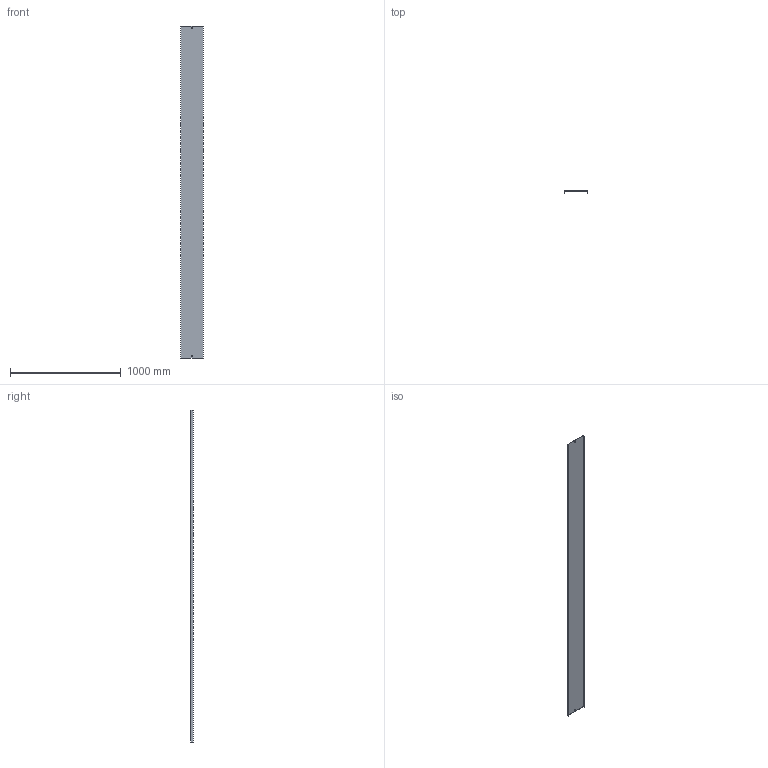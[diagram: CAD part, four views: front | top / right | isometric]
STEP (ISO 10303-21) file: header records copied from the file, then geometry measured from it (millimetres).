
FILE_DESCRIPTION (( 'STEP AP214' ), '1' );
FILE_NAME ('05G3R200.step', '2025-02-21T13:07:52', ( '' ), ( '' ), 'SwSTEP 2.0', 'SolidWorks 2023', '' );
FILE_SCHEMA (( 'AUTOMOTIVE_DESIGN' ));
Length unit declared in the file: millimetre
Products named in the file (1): 05G3R200
Bounding box: 207 x 20 x 3000 mm (x, y, z)
Volume: 1097824.5 mm3; surface area: 1473591 mm2
Topology: 1 solids, 1 shells, 18 faces, 48 edges, 32 vertices
Faces by surface type: plane 18
Entity records: 583 total; most frequent: CARTESIAN_POINT 99, ORIENTED_EDGE 96, DIRECTION 86, EDGE_CURVE 48, VECTOR 48, LINE 48, VERTEX_POINT 32, EDGE_LOOP 22
